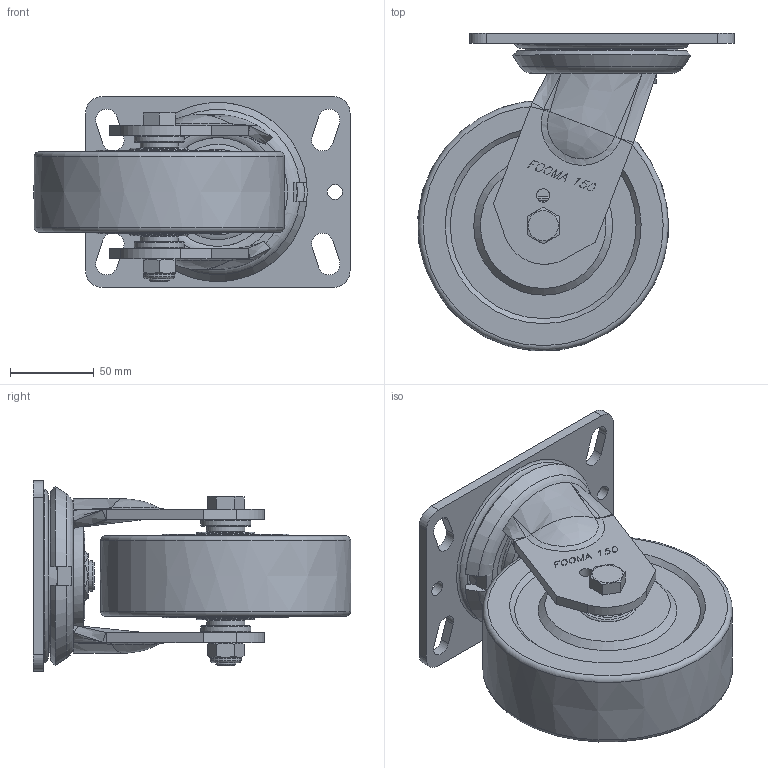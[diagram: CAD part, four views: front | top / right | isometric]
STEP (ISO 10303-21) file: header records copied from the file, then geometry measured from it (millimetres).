
FILE_DESCRIPTION(/* description */ (''),/* implementation_level */ '2;1');
FILE_NAME(/* name */ 'E:\★.DWG\PMH-SERIES\3D\홈페이지용\20180122-STEP\PMH-150-ASF-MCD.stp',/* time_stamp */ '2018-01-22T14:35:51+09:00',/* author */ ('장용하'),/* organization */ (''),/* preprocessor_version */ 'ST-DEVELOPER v16.13',/* originating_system */ 'Autodesk Inventor 2018',/* authorisation */ '');
FILE_SCHEMA (('AUTOMOTIVE_DESIGN { 1 0 10303 214 3 1 1 }'));
Length unit declared in the file: millimetre
Products named in the file (1): PMH-150-ASF-MCD_Shrinkwrap_1
Bounding box: 188.79 x 189.79 x 114 mm (x, y, z)
Volume: 1169492.1 mm3; surface area: 145037 mm2
Topology: 3 solids, 3 shells, 1063 faces, 2910 edges, 1906 vertices
Faces by surface type: plane 910, bspline 65, cylinder 37, cone 26, torus 25
Full cylindrical faces by diameter (mm): 8 x2, 9 x2, 12 x1, 18 x1, 18.5 x1, 21.667 x2, 21.867 x2, 22.9 x2, 28.133 x2, 28.333 x2, 30 x2, 35 x2, 65 x1, 90.814 x1
Entity records: 35363 total; most frequent: CARTESIAN_POINT 7959, ORIENTED_EDGE 5638, DIRECTION 4912, EDGE_CURVE 2819, LINE 2470, VECTOR 2470, VERTEX_POINT 1886, AXIS2_PLACEMENT_3D 1221
